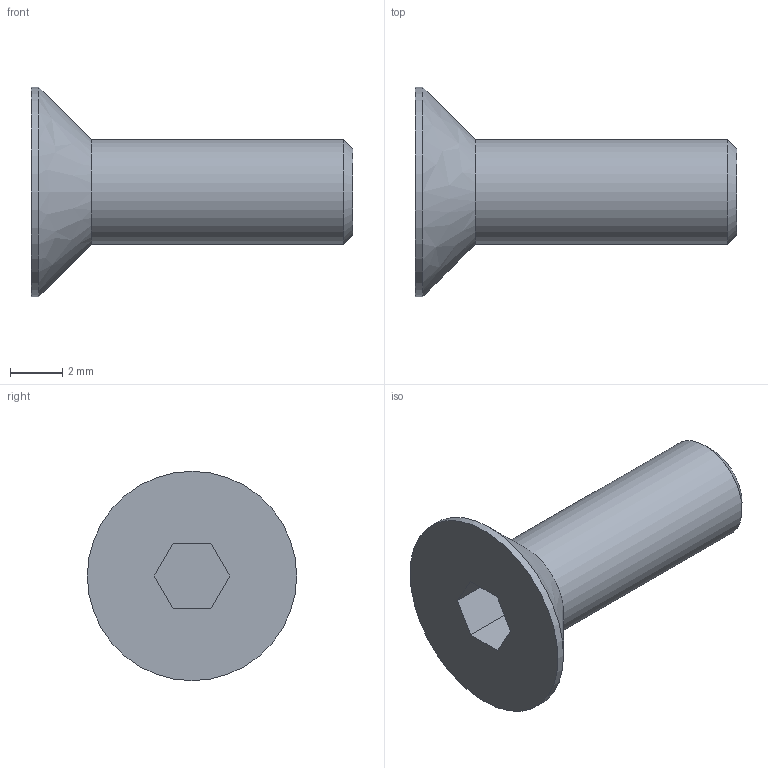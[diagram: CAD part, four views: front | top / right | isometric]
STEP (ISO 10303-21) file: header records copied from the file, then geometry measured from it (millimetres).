
FILE_DESCRIPTION( ( 'STEP AP203' ), '1' );
FILE_NAME( 'C:/FCS-04.stp', '2013-10-15T01:22:34', ( ' ' ), ( ' ' ), 'XStep 1.0', ' ', ' ' );
FILE_SCHEMA( ( 'CONFIG_CONTROL_DESIGN' ) );
Length unit declared in the file: metre
Products named in the file (1): 1
Bounding box: 12.3 x 8 x 8 mm (x, y, z)
Volume: 184 mm3; surface area: 273.1 mm2
Topology: 1 solids, 1 shells, 13 faces, 27 edges, 17 vertices
Faces by surface type: bspline 13
Entity records: 420 total; most frequent: CARTESIAN_POINT 155, ORIENTED_EDGE 46, DIRECTION 28, EDGE_CURVE 23, EDGE_LOOP 18, FACE_OUTER_BOUND 17, VERTEX_POINT 17, LINE 16
